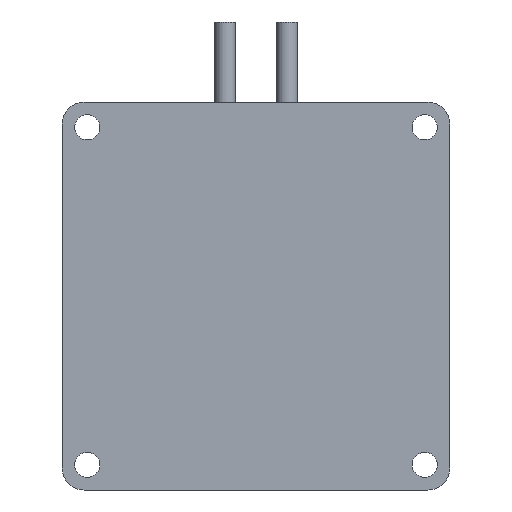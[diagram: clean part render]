
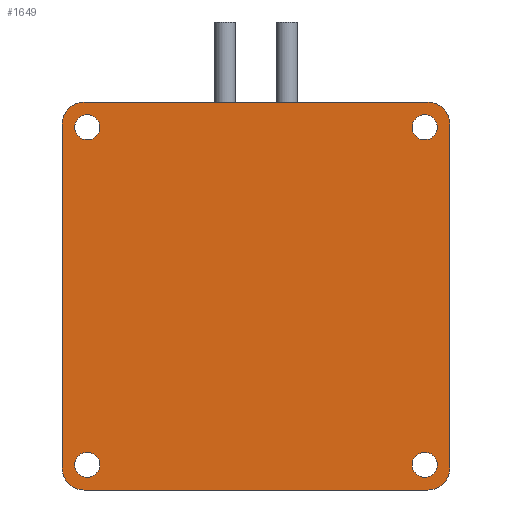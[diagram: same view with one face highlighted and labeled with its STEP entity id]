
A CAD part, front view. The second image highlights one B-rep face of the part: STEP entity #1649.
In plain terms, the highlighted planar face has unit normal (0, -1, 0).
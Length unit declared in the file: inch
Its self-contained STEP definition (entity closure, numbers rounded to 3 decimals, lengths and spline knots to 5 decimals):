
#12 = EDGE_CURVE ( 'NONE', #1773, #1311, #2323, .T. ) ;
#39 = ORIENTED_EDGE ( 'NONE', *, *, #1016, .T. ) ;
#41 = VERTEX_POINT ( 'NONE', #2262 ) ;
#49 = CARTESIAN_POINT ( 'NONE',  ( -0.84469, 0., -0.84469 ) ) ;
#53 = VERTEX_POINT ( 'NONE', #444 ) ;
#74 = FACE_BOUND ( 'NONE', #886, .T. ) ;
#80 = EDGE_CURVE ( 'NONE', #1311, #1171, #1894, .T. ) ;
#93 = CARTESIAN_POINT ( 'NONE',  ( 0.84469, 0., -0.95295 ) ) ;
#101 = DIRECTION ( 'NONE',  ( 0., -1., 0. ) ) ;
#110 = EDGE_CURVE ( 'NONE', #1371, #53, #2369, .T. ) ;
#112 = VERTEX_POINT ( 'NONE', #93 ) ;
#141 = EDGE_CURVE ( 'NONE', #112, #1767, #1092, .T. ) ;
#161 = DIRECTION ( 'NONE',  ( 0., 1., 0. ) ) ;
#173 = CARTESIAN_POINT ( 'NONE',  ( 0.84469, 0., 0.84469 ) ) ;
#191 = AXIS2_PLACEMENT_3D ( 'NONE', #467, #2247, #1275 ) ;
#203 = VERTEX_POINT ( 'NONE', #1842 ) ;
#217 = CARTESIAN_POINT ( 'NONE',  ( -0.84469, 0., 0.84469 ) ) ;
#233 = DIRECTION ( 'NONE',  ( 0., 0., 1. ) ) ;
#248 = ORIENTED_EDGE ( 'NONE', *, *, #1781, .T. ) ;
#251 = DIRECTION ( 'NONE',  ( 0., 0., 1. ) ) ;
#270 = AXIS2_PLACEMENT_3D ( 'NONE', #677, #1789, #2295 ) ;
#337 = CIRCLE ( 'NONE', #1329, 0.06161 ) ;
#384 = ORIENTED_EDGE ( 'NONE', *, *, #1463, .T. ) ;
#394 = EDGE_CURVE ( 'NONE', #1767, #1933, #1797, .T. ) ;
#424 = CARTESIAN_POINT ( 'NONE',  ( -0.84469, 0., 0.95295 ) ) ;
#444 = CARTESIAN_POINT ( 'NONE',  ( 0.82933, 0., -0.89094 ) ) ;
#445 = CIRCLE ( 'NONE', #2371, 0.10827 ) ;
#452 = CARTESIAN_POINT ( 'NONE',  ( -0.82933, 0., -0.82933 ) ) ;
#459 = VERTEX_POINT ( 'NONE', #1482 ) ;
#467 = CARTESIAN_POINT ( 'NONE',  ( 0.82933, 0., 0.82933 ) ) ;
#472 = EDGE_CURVE ( 'NONE', #1037, #2342, #642, .T. ) ;
#478 = DIRECTION ( 'NONE',  ( 0., 0., 1. ) ) ;
#514 = CARTESIAN_POINT ( 'NONE',  ( -0.82933, 0., 0.76772 ) ) ;
#549 = CARTESIAN_POINT ( 'NONE',  ( 0.95295, 0., 0.84469 ) ) ;
#569 = FACE_OUTER_BOUND ( 'NONE', #2044, .T. ) ;
#642 = CIRCLE ( 'NONE', #1814, 0.06161 ) ;
#677 = CARTESIAN_POINT ( 'NONE',  ( 0.82933, 0., 0.82933 ) ) ;
#678 = EDGE_LOOP ( 'NONE', ( #745, #1577 ) ) ;
#699 = AXIS2_PLACEMENT_3D ( 'NONE', #49, #1144, #1483 ) ;
#705 = ORIENTED_EDGE ( 'NONE', *, *, #1391, .T. ) ;
#739 = DIRECTION ( 'NONE',  ( 0., 0., 1. ) ) ;
#745 = ORIENTED_EDGE ( 'NONE', *, *, #1005, .T. ) ;
#746 = VERTEX_POINT ( 'NONE', #2027 ) ;
#760 = CARTESIAN_POINT ( 'NONE',  ( 0.82933, 0., 0.89094 ) ) ;
#789 = CARTESIAN_POINT ( 'NONE',  ( -0.95295, 0., -0.84469 ) ) ;
#864 = ORIENTED_EDGE ( 'NONE', *, *, #12, .T. ) ;
#885 = EDGE_CURVE ( 'NONE', #2130, #1494, #2332, .T. ) ;
#886 = EDGE_LOOP ( 'NONE', ( #1565, #705 ) ) ;
#922 = LINE ( 'NONE', #424, #1530 ) ;
#925 = DIRECTION ( 'NONE',  ( 0., 1., 0. ) ) ;
#944 = VECTOR ( 'NONE', #1473, 39.37008 ) ;
#949 = CIRCLE ( 'NONE', #1008, 0.06161 ) ;
#968 = CARTESIAN_POINT ( 'NONE',  ( 0.82933, 0., -0.76772 ) ) ;
#996 = CARTESIAN_POINT ( 'NONE',  ( -0.95295, 0., -0.84469 ) ) ;
#1005 = EDGE_CURVE ( 'NONE', #459, #746, #1866, .T. ) ;
#1008 = AXIS2_PLACEMENT_3D ( 'NONE', #1266, #161, #1341 ) ;
#1016 = EDGE_CURVE ( 'NONE', #41, #203, #922, .T. ) ;
#1030 = FACE_BOUND ( 'NONE', #1549, .T. ) ;
#1037 = VERTEX_POINT ( 'NONE', #1665 ) ;
#1053 = DIRECTION ( 'NONE',  ( 0., 1., 0. ) ) ;
#1070 = CARTESIAN_POINT ( 'NONE',  ( -0.82933, 0., 0.82933 ) ) ;
#1080 = FACE_BOUND ( 'NONE', #1160, .T. ) ;
#1092 = CIRCLE ( 'NONE', #1610, 0.10827 ) ;
#1100 = CARTESIAN_POINT ( 'NONE',  ( 0.82933, 0., -0.82933 ) ) ;
#1111 = DIRECTION ( 'NONE',  ( 0., 1., 0. ) ) ;
#1144 = DIRECTION ( 'NONE',  ( 0., -1., 0. ) ) ;
#1159 = PLANE ( 'NONE',  #1328 ) ;
#1160 = EDGE_LOOP ( 'NONE', ( #2191, #1994 ) ) ;
#1171 = VERTEX_POINT ( 'NONE', #1741 ) ;
#1178 = DIRECTION ( 'NONE',  ( 1., 0., 0. ) ) ;
#1202 = DIRECTION ( 'NONE',  ( 0., 0., 1. ) ) ;
#1254 = DIRECTION ( 'NONE',  ( 0., 1., 0. ) ) ;
#1261 = CIRCLE ( 'NONE', #270, 0.06161 ) ;
#1266 = CARTESIAN_POINT ( 'NONE',  ( -0.82933, 0., -0.82933 ) ) ;
#1272 = CARTESIAN_POINT ( 'NONE',  ( -0.84469, 0., -0.84469 ) ) ;
#1275 = DIRECTION ( 'NONE',  ( 0., 0., 1. ) ) ;
#1294 = ORIENTED_EDGE ( 'NONE', *, *, #394, .T. ) ;
#1311 = VERTEX_POINT ( 'NONE', #789 ) ;
#1315 = AXIS2_PLACEMENT_3D ( 'NONE', #452, #2221, #739 ) ;
#1328 = AXIS2_PLACEMENT_3D ( 'NONE', #1272, #1254, #233 ) ;
#1329 = AXIS2_PLACEMENT_3D ( 'NONE', #1100, #1053, #1915 ) ;
#1341 = DIRECTION ( 'NONE',  ( 0., 0., 1. ) ) ;
#1371 = VERTEX_POINT ( 'NONE', #968 ) ;
#1374 = CARTESIAN_POINT ( 'NONE',  ( -0.82933, 0., 0.82933 ) ) ;
#1391 = EDGE_CURVE ( 'NONE', #2342, #1037, #1456, .T. ) ;
#1393 = LINE ( 'NONE', #1981, #2188 ) ;
#1404 = EDGE_CURVE ( 'NONE', #203, #1773, #2334, .T. ) ;
#1456 = CIRCLE ( 'NONE', #2344, 0.06161 ) ;
#1463 = EDGE_CURVE ( 'NONE', #1171, #112, #1393, .T. ) ;
#1467 = ORIENTED_EDGE ( 'NONE', *, *, #110, .T. ) ;
#1473 = DIRECTION ( 'NONE',  ( 0., 0., 1. ) ) ;
#1482 = CARTESIAN_POINT ( 'NONE',  ( -0.82933, 0., -0.76772 ) ) ;
#1483 = DIRECTION ( 'NONE',  ( 0., 0., 1. ) ) ;
#1494 = VERTEX_POINT ( 'NONE', #2018 ) ;
#1509 = CARTESIAN_POINT ( 'NONE',  ( 0.95295, 0., 0.84469 ) ) ;
#1518 = DIRECTION ( 'NONE',  ( 0., -1., 0. ) ) ;
#1530 = VECTOR ( 'NONE', #2276, 39.37008 ) ;
#1549 = EDGE_LOOP ( 'NONE', ( #1467, #2303 ) ) ;
#1565 = ORIENTED_EDGE ( 'NONE', *, *, #472, .T. ) ;
#1577 = ORIENTED_EDGE ( 'NONE', *, *, #1711, .T. ) ;
#1587 = ORIENTED_EDGE ( 'NONE', *, *, #1404, .T. ) ;
#1589 = DIRECTION ( 'NONE',  ( 0., 0., 1. ) ) ;
#1610 = AXIS2_PLACEMENT_3D ( 'NONE', #1795, #101, #1202 ) ;
#1624 = DIRECTION ( 'NONE',  ( 0., 1., 0. ) ) ;
#1626 = AXIS2_PLACEMENT_3D ( 'NONE', #2116, #925, #2000 ) ;
#1638 = EDGE_CURVE ( 'NONE', #1494, #2130, #1261, .T. ) ;
#1649 = ADVANCED_FACE ( 'NONE', ( #1030, #1080, #74, #1917, #569 ), #1159, .F. ) ;
#1665 = CARTESIAN_POINT ( 'NONE',  ( -0.82933, 0., 0.89094 ) ) ;
#1711 = EDGE_CURVE ( 'NONE', #746, #459, #949, .T. ) ;
#1723 = ORIENTED_EDGE ( 'NONE', *, *, #80, .T. ) ;
#1741 = CARTESIAN_POINT ( 'NONE',  ( -0.84469, 0., -0.95295 ) ) ;
#1767 = VERTEX_POINT ( 'NONE', #1927 ) ;
#1773 = VERTEX_POINT ( 'NONE', #2182 ) ;
#1781 = EDGE_CURVE ( 'NONE', #1933, #41, #445, .T. ) ;
#1789 = DIRECTION ( 'NONE',  ( 0., 1., 0. ) ) ;
#1795 = CARTESIAN_POINT ( 'NONE',  ( 0.84469, 0., -0.84469 ) ) ;
#1797 = LINE ( 'NONE', #1509, #944 ) ;
#1814 = AXIS2_PLACEMENT_3D ( 'NONE', #1374, #1111, #251 ) ;
#1842 = CARTESIAN_POINT ( 'NONE',  ( -0.84469, 0., 0.95295 ) ) ;
#1866 = CIRCLE ( 'NONE', #1315, 0.06161 ) ;
#1894 = CIRCLE ( 'NONE', #699, 0.10827 ) ;
#1915 = DIRECTION ( 'NONE',  ( 0., 0., 1. ) ) ;
#1917 = FACE_BOUND ( 'NONE', #678, .T. ) ;
#1927 = CARTESIAN_POINT ( 'NONE',  ( 0.95295, 0., -0.84469 ) ) ;
#1933 = VERTEX_POINT ( 'NONE', #549 ) ;
#1981 = CARTESIAN_POINT ( 'NONE',  ( 0.84469, 0., -0.95295 ) ) ;
#1994 = ORIENTED_EDGE ( 'NONE', *, *, #1638, .T. ) ;
#2000 = DIRECTION ( 'NONE',  ( 0., 0., 1. ) ) ;
#2018 = CARTESIAN_POINT ( 'NONE',  ( 0.82933, 0., 0.76772 ) ) ;
#2027 = CARTESIAN_POINT ( 'NONE',  ( -0.82933, 0., -0.89094 ) ) ;
#2044 = EDGE_LOOP ( 'NONE', ( #1723, #384, #2310, #1294, #248, #39, #1587, #864 ) ) ;
#2094 = EDGE_CURVE ( 'NONE', #53, #1371, #337, .T. ) ;
#2116 = CARTESIAN_POINT ( 'NONE',  ( 0.82933, 0., -0.82933 ) ) ;
#2130 = VERTEX_POINT ( 'NONE', #760 ) ;
#2137 = AXIS2_PLACEMENT_3D ( 'NONE', #217, #1518, #478 ) ;
#2182 = CARTESIAN_POINT ( 'NONE',  ( -0.95295, 0., 0.84469 ) ) ;
#2188 = VECTOR ( 'NONE', #1178, 39.37008 ) ;
#2191 = ORIENTED_EDGE ( 'NONE', *, *, #885, .T. ) ;
#2221 = DIRECTION ( 'NONE',  ( 0., 1., 0. ) ) ;
#2247 = DIRECTION ( 'NONE',  ( 0., 1., 0. ) ) ;
#2256 = VECTOR ( 'NONE', #2378, 39.37008 ) ;
#2262 = CARTESIAN_POINT ( 'NONE',  ( 0.84469, 0., 0.95295 ) ) ;
#2276 = DIRECTION ( 'NONE',  ( -1., 0., 0. ) ) ;
#2295 = DIRECTION ( 'NONE',  ( 0., 0., 1. ) ) ;
#2303 = ORIENTED_EDGE ( 'NONE', *, *, #2094, .T. ) ;
#2310 = ORIENTED_EDGE ( 'NONE', *, *, #141, .T. ) ;
#2317 = DIRECTION ( 'NONE',  ( 0., 0., 1. ) ) ;
#2323 = LINE ( 'NONE', #996, #2256 ) ;
#2332 = CIRCLE ( 'NONE', #191, 0.06161 ) ;
#2334 = CIRCLE ( 'NONE', #2137, 0.10827 ) ;
#2342 = VERTEX_POINT ( 'NONE', #514 ) ;
#2344 = AXIS2_PLACEMENT_3D ( 'NONE', #1070, #1624, #1589 ) ;
#2369 = CIRCLE ( 'NONE', #1626, 0.06161 ) ;
#2371 = AXIS2_PLACEMENT_3D ( 'NONE', #173, #2400, #2317 ) ;
#2378 = DIRECTION ( 'NONE',  ( 0., 0., -1. ) ) ;
#2400 = DIRECTION ( 'NONE',  ( 0., -1., 0. ) ) ;
